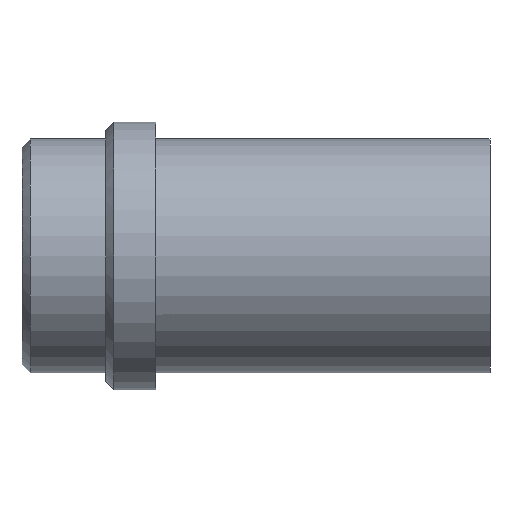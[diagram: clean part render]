
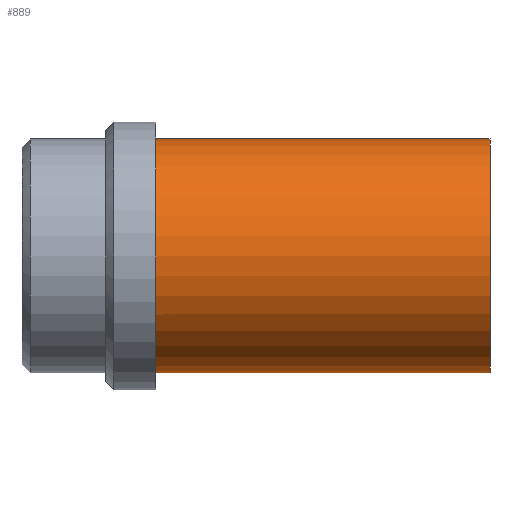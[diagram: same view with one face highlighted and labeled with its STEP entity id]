
A CAD part, front view. The second image highlights one B-rep face of the part: STEP entity #889.
In plain terms, the highlighted cylindrical face has radius 14 mm (diameter 28 mm), a partial arc.
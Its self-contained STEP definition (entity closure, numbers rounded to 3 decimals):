
#723=CARTESIAN_POINT('Vertex',(40.,0.,14.)) ;
#726=CARTESIAN_POINT('Axis2P3D Location',(40.,0.,0.)) ;
#730=CARTESIAN_POINT('Vertex',(40.,-14.,0.)) ;
#733=CARTESIAN_POINT('Axis2P3D Location',(40.,0.,0.)) ;
#737=CARTESIAN_POINT('Vertex',(40.,0.,-14.)) ;
#829=CARTESIAN_POINT('Line Origine',(40.,0.,14.)) ;
#833=CARTESIAN_POINT('Vertex',(0.,0.,14.)) ;
#836=CARTESIAN_POINT('Line Origine',(40.,0.,-14.)) ;
#840=CARTESIAN_POINT('Vertex',(0.,0.,-14.)) ;
#864=CARTESIAN_POINT('Axis2P3D Location',(40.,0.,0.)) ;
#869=CARTESIAN_POINT('Axis2P3D Location',(0.,0.,0.)) ;
#873=CARTESIAN_POINT('Vertex',(0.,-14.,0.)) ;
#876=CARTESIAN_POINT('Axis2P3D Location',(0.,0.,0.)) ;
#727=DIRECTION('Axis2P3D Direction',(1.,0.,-0.)) ;
#734=DIRECTION('Axis2P3D Direction',(1.,0.,-0.)) ;
#830=DIRECTION('Vector Direction',(-1.,0.,0.)) ;
#837=DIRECTION('Vector Direction',(-1.,0.,0.)) ;
#865=DIRECTION('Axis2P3D Direction',(-1.,-0.,-0.)) ;
#866=DIRECTION('Axis2P3D XDirection',(0.,0.,-1.)) ;
#870=DIRECTION('Axis2P3D Direction',(-1.,-0.,-0.)) ;
#877=DIRECTION('Axis2P3D Direction',(-1.,-0.,-0.)) ;
#728=AXIS2_PLACEMENT_3D('Circle Axis2P3D',#726,#727,$) ;
#735=AXIS2_PLACEMENT_3D('Circle Axis2P3D',#733,#734,$) ;
#867=AXIS2_PLACEMENT_3D('Cylinder Axis2P3D',#864,#865,#866) ;
#871=AXIS2_PLACEMENT_3D('Circle Axis2P3D',#869,#870,$) ;
#878=AXIS2_PLACEMENT_3D('Circle Axis2P3D',#876,#877,$) ;
#882=ORIENTED_EDGE('',*,*,#842,.T.) ;
#883=ORIENTED_EDGE('',*,*,#739,.F.) ;
#884=ORIENTED_EDGE('',*,*,#732,.F.) ;
#885=ORIENTED_EDGE('',*,*,#835,.T.) ;
#886=ORIENTED_EDGE('',*,*,#875,.T.) ;
#887=ORIENTED_EDGE('',*,*,#880,.T.) ;
#831=VECTOR('Line Direction',#830,1.) ;
#838=VECTOR('Line Direction',#837,1.) ;
#889=ADVANCED_FACE('358-20X56',(#888),#868,.T.) ;
#729=CIRCLE('generated circle',#728,14.) ;
#736=CIRCLE('generated circle',#735,14.) ;
#872=CIRCLE('generated circle',#871,14.) ;
#879=CIRCLE('generated circle',#878,14.) ;
#868=CYLINDRICAL_SURFACE('generated cylinder',#867,14.) ;
#732=EDGE_CURVE('',#724,#731,#729,.T.) ;
#739=EDGE_CURVE('',#731,#738,#736,.T.) ;
#835=EDGE_CURVE('',#724,#834,#832,.T.) ;
#842=EDGE_CURVE('',#841,#738,#839,.F.) ;
#875=EDGE_CURVE('',#834,#874,#872,.F.) ;
#880=EDGE_CURVE('',#874,#841,#879,.F.) ;
#881=EDGE_LOOP('',(#882,#883,#884,#885,#886,#887)) ;
#888=FACE_OUTER_BOUND('',#881,.T.) ;
#832=LINE('Line',#829,#831) ;
#839=LINE('Line',#836,#838) ;
#724=VERTEX_POINT('',#723) ;
#731=VERTEX_POINT('',#730) ;
#738=VERTEX_POINT('',#737) ;
#834=VERTEX_POINT('',#833) ;
#841=VERTEX_POINT('',#840) ;
#874=VERTEX_POINT('',#873) ;
